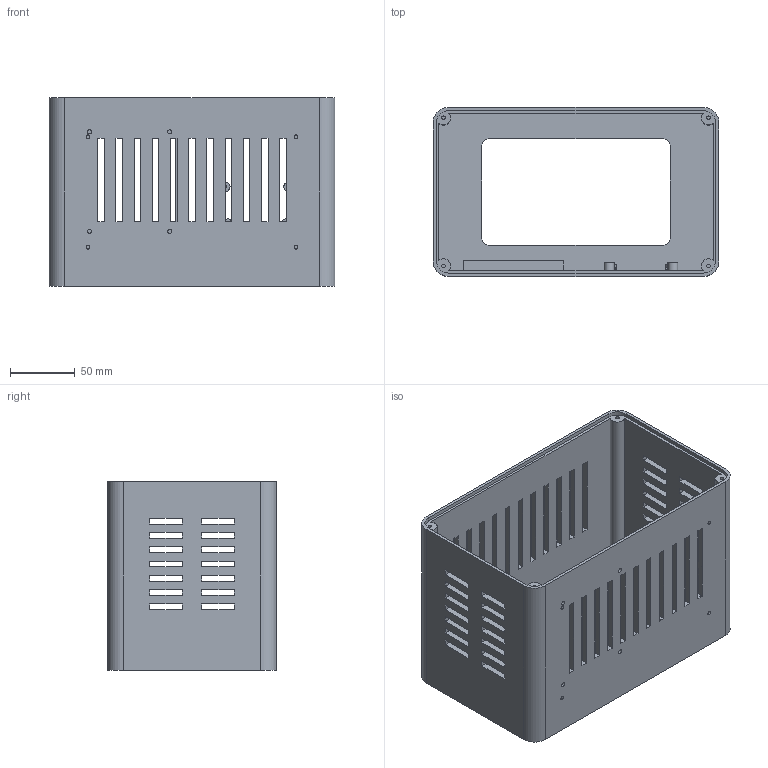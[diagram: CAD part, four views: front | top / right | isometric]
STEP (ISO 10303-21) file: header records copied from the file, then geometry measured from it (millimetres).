
FILE_DESCRIPTION(('Open CASCADE Model'),'2;1');
FILE_NAME('Open CASCADE Shape Model','2026-10-13T14:12:51',('Author'),( 'Open CASCADE'),'Open CASCADE STEP processor 7.7','Open CASCADE 7.7' ,'Unknown');
FILE_SCHEMA(('AUTOMOTIVE_DESIGN { 1 0 10303 214 1 1 1 1 }'));
Length unit declared in the file: millimetre
Products named in the file (1): COMPOUND
Bounding box: 220 x 130 x 145 mm (x, y, z)
Volume: 561275.5 mm3; surface area: 233917.1 mm2
Topology: 1 solids, 1 shells, 307 faces, 868 edges, 580 vertices
Faces by surface type: plane 259, cylinder 48
Full cylindrical faces by diameter (mm): 2.3 x8, 2.8 x8, 3.2 x4, 6.4 x4, 7.6 x4
Entity records: 20660 total; most frequent: CARTESIAN_POINT 4694, DIRECTION 2396, ORIENTED_EDGE 1736, PCURVE 1736, DEFINITIONAL_REPRESENTATION 1736, LINE 1510, VECTOR 1510, B_SPLINE_CURVE_WITH_KNOTS 878
